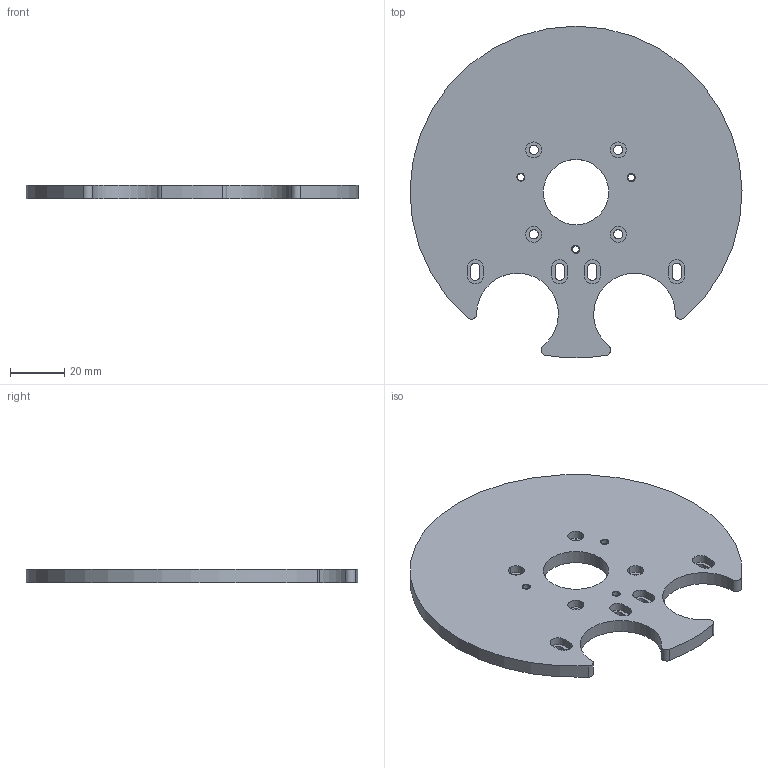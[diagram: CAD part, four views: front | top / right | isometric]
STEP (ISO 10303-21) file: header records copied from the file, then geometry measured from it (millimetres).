
FILE_DESCRIPTION((''),'2;1');
FILE_NAME('ART2BODYACOVER1','2022-08-24T09:21:01',('domen.bizjak'),('Audax d.o.o.'),'CREO PARAMETRIC BY PTC INC, 2021184','CREO PARAMETRIC BY PTC INC, 2021184','');
FILE_SCHEMA(('AP242_MANAGED_MODEL_BASED_3D_ENGINEERING_MIM_LF { 1 0 10303 442 1 1 4 }'));
Length unit declared in the file: millimetre
Products named in the file (1): ART2BODYACOVER1
Bounding box: 122 x 121.89 x 5 mm (x, y, z)
Volume: 48412.2 mm3; surface area: 23237.9 mm2
Topology: 1 solids, 4 shells, 80 faces, 250 edges, 200 vertices
Faces by surface type: cylinder 54, plane 26
Entity records: 4316 total; most frequent: DIRECTION 578, CARTESIAN_POINT 513, ORIENTED_EDGE 448, COLOUR_RGB 319, PRESENTATION_STYLE_ASSIGNMENT 258, STYLED_ITEM 258, CURVE_STYLE 252, EDGE_CURVE 230
